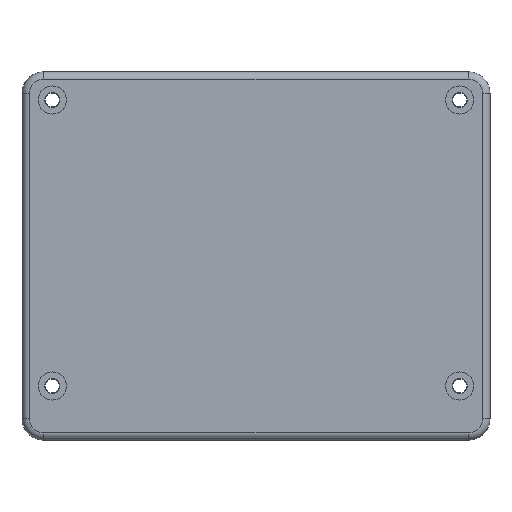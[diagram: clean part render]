
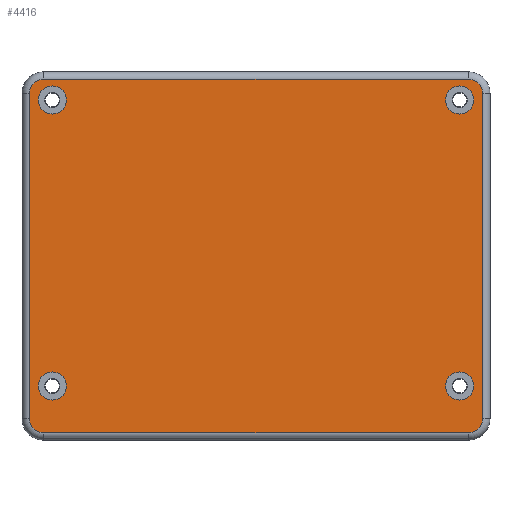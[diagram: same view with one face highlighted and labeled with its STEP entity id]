
A CAD part, front view. The second image highlights one B-rep face of the part: STEP entity #4416.
In plain terms, the highlighted planar face has unit normal (0, -1, 0).
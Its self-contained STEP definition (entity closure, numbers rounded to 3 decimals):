
#2=DIRECTION('',(1.,0.,0.));
#3=VECTOR('',#2,98.);
#4=CARTESIAN_POINT('',(-49.,-16.5,-40.8));
#5=LINE('',#4,#3);
#6=CARTESIAN_POINT('',(-49.,-16.5,-37.5));
#7=DIRECTION('',(0.,-1.,0.));
#8=DIRECTION('',(-1.,0.,0.));
#9=AXIS2_PLACEMENT_3D('',#6,#7,#8);
#11=DIRECTION('',(0.,0.,-1.));
#12=VECTOR('',#11,75.);
#13=CARTESIAN_POINT('',(-52.3,-16.5,37.5));
#14=LINE('',#13,#12);
#15=CARTESIAN_POINT('',(-49.,-16.5,37.5));
#16=DIRECTION('',(0.,-1.,0.));
#17=DIRECTION('',(0.,0.,1.));
#18=AXIS2_PLACEMENT_3D('',#15,#16,#17);
#20=DIRECTION('',(-1.,0.,0.));
#21=VECTOR('',#20,98.);
#22=CARTESIAN_POINT('',(49.,-16.5,40.8));
#23=LINE('',#22,#21);
#24=CARTESIAN_POINT('',(49.,-16.5,37.5));
#25=DIRECTION('',(0.,-1.,0.));
#26=DIRECTION('',(1.,0.,0.));
#27=AXIS2_PLACEMENT_3D('',#24,#25,#26);
#29=DIRECTION('',(0.,0.,1.));
#30=VECTOR('',#29,75.);
#31=CARTESIAN_POINT('',(52.3,-16.5,-37.5));
#32=LINE('',#31,#30);
#33=CARTESIAN_POINT('',(49.,-16.5,-37.5));
#34=DIRECTION('',(0.,-1.,0.));
#35=DIRECTION('',(0.,0.,-1.));
#36=AXIS2_PLACEMENT_3D('',#33,#34,#35);
#38=CARTESIAN_POINT('',(-47.,-16.5,-30.));
#39=DIRECTION('',(0.,-1.,0.));
#40=DIRECTION('',(-1.,0.,0.));
#41=AXIS2_PLACEMENT_3D('',#38,#39,#40);
#43=CARTESIAN_POINT('',(-47.,-16.5,-30.));
#44=DIRECTION('',(0.,-1.,0.));
#45=DIRECTION('',(1.,0.,0.));
#46=AXIS2_PLACEMENT_3D('',#43,#44,#45);
#48=CARTESIAN_POINT('',(47.,-16.5,-30.));
#49=DIRECTION('',(0.,-1.,0.));
#50=DIRECTION('',(-1.,0.,0.));
#51=AXIS2_PLACEMENT_3D('',#48,#49,#50);
#53=CARTESIAN_POINT('',(47.,-16.5,-30.));
#54=DIRECTION('',(0.,-1.,0.));
#55=DIRECTION('',(1.,0.,0.));
#56=AXIS2_PLACEMENT_3D('',#53,#54,#55);
#58=CARTESIAN_POINT('',(47.,-16.5,36.));
#59=DIRECTION('',(0.,-1.,0.));
#60=DIRECTION('',(-1.,0.,0.));
#61=AXIS2_PLACEMENT_3D('',#58,#59,#60);
#63=CARTESIAN_POINT('',(47.,-16.5,36.));
#64=DIRECTION('',(0.,-1.,0.));
#65=DIRECTION('',(1.,0.,0.));
#66=AXIS2_PLACEMENT_3D('',#63,#64,#65);
#68=CARTESIAN_POINT('',(-47.,-16.5,36.));
#69=DIRECTION('',(0.,-1.,0.));
#70=DIRECTION('',(-1.,0.,0.));
#71=AXIS2_PLACEMENT_3D('',#68,#69,#70);
#73=CARTESIAN_POINT('',(-47.,-16.5,36.));
#74=DIRECTION('',(0.,-1.,0.));
#75=DIRECTION('',(1.,0.,0.));
#76=AXIS2_PLACEMENT_3D('',#73,#74,#75);
#3559=CARTESIAN_POINT('',(-49.,-16.5,-40.8));
#3560=CARTESIAN_POINT('',(49.,-16.5,-40.8));
#3561=VERTEX_POINT('',#3559);
#3562=VERTEX_POINT('',#3560);
#3567=CARTESIAN_POINT('',(52.3,-16.5,-37.5));
#3568=VERTEX_POINT('',#3567);
#3571=CARTESIAN_POINT('',(52.3,-16.5,37.5));
#3572=VERTEX_POINT('',#3571);
#3575=CARTESIAN_POINT('',(49.,-16.5,40.8));
#3576=VERTEX_POINT('',#3575);
#3579=CARTESIAN_POINT('',(-49.,-16.5,40.8));
#3580=VERTEX_POINT('',#3579);
#3583=CARTESIAN_POINT('',(-52.3,-16.5,37.5));
#3584=VERTEX_POINT('',#3583);
#3587=CARTESIAN_POINT('',(-52.3,-16.5,-37.5));
#3588=VERTEX_POINT('',#3587);
#4152=CARTESIAN_POINT('',(-50.25,-16.5,-30.));
#4153=CARTESIAN_POINT('',(-43.75,-16.5,-30.));
#4154=VERTEX_POINT('',#4152);
#4155=VERTEX_POINT('',#4153);
#4156=CARTESIAN_POINT('',(43.75,-16.5,-30.));
#4157=CARTESIAN_POINT('',(50.25,-16.5,-30.));
#4158=VERTEX_POINT('',#4156);
#4159=VERTEX_POINT('',#4157);
#4160=CARTESIAN_POINT('',(43.75,-16.5,36.));
#4161=CARTESIAN_POINT('',(50.25,-16.5,36.));
#4162=VERTEX_POINT('',#4160);
#4163=VERTEX_POINT('',#4161);
#4164=CARTESIAN_POINT('',(-50.25,-16.5,36.));
#4165=CARTESIAN_POINT('',(-43.75,-16.5,36.));
#4166=VERTEX_POINT('',#4164);
#4167=VERTEX_POINT('',#4165);
#4369=CARTESIAN_POINT('',(0.,-16.5,0.));
#4370=DIRECTION('',(0.,1.,0.));
#4371=DIRECTION('',(1.,0.,0.));
#4372=AXIS2_PLACEMENT_3D('',#4369,#4370,#4371);
#4373=PLANE('',#4372);
#4375=ORIENTED_EDGE('',*,*,#4374,.F.);
#4377=ORIENTED_EDGE('',*,*,#4376,.F.);
#4379=ORIENTED_EDGE('',*,*,#4378,.F.);
#4381=ORIENTED_EDGE('',*,*,#4380,.F.);
#4383=ORIENTED_EDGE('',*,*,#4382,.F.);
#4385=ORIENTED_EDGE('',*,*,#4384,.F.);
#4387=ORIENTED_EDGE('',*,*,#4386,.F.);
#4389=ORIENTED_EDGE('',*,*,#4388,.F.);
#4390=EDGE_LOOP('',(#4375,#4377,#4379,#4381,#4383,#4385,#4387,#4389));
#4391=FACE_OUTER_BOUND('',#4390,.F.);
#4393=ORIENTED_EDGE('',*,*,#4392,.T.);
#4395=ORIENTED_EDGE('',*,*,#4394,.T.);
#4396=EDGE_LOOP('',(#4393,#4395));
#4397=FACE_BOUND('',#4396,.F.);
#4399=ORIENTED_EDGE('',*,*,#4398,.T.);
#4401=ORIENTED_EDGE('',*,*,#4400,.T.);
#4402=EDGE_LOOP('',(#4399,#4401));
#4403=FACE_BOUND('',#4402,.F.);
#4405=ORIENTED_EDGE('',*,*,#4404,.T.);
#4407=ORIENTED_EDGE('',*,*,#4406,.T.);
#4408=EDGE_LOOP('',(#4405,#4407));
#4409=FACE_BOUND('',#4408,.F.);
#4411=ORIENTED_EDGE('',*,*,#4410,.T.);
#4413=ORIENTED_EDGE('',*,*,#4412,.T.);
#4414=EDGE_LOOP('',(#4411,#4413));
#4415=FACE_BOUND('',#4414,.F.);
#4416=ADVANCED_FACE('',(#4391,#4397,#4403,#4409,#4415),#4373,.F.);
#10=CIRCLE('',#9,3.3);
#19=CIRCLE('',#18,3.3);
#28=CIRCLE('',#27,3.3);
#37=CIRCLE('',#36,3.3);
#42=CIRCLE('',#41,3.25);
#47=CIRCLE('',#46,3.25);
#52=CIRCLE('',#51,3.25);
#57=CIRCLE('',#56,3.25);
#62=CIRCLE('',#61,3.25);
#67=CIRCLE('',#66,3.25);
#72=CIRCLE('',#71,3.25);
#77=CIRCLE('',#76,3.25);
#4374=EDGE_CURVE('',#3561,#3562,#5,.T.);
#4376=EDGE_CURVE('',#3588,#3561,#10,.T.);
#4378=EDGE_CURVE('',#3584,#3588,#14,.T.);
#4380=EDGE_CURVE('',#3580,#3584,#19,.T.);
#4382=EDGE_CURVE('',#3576,#3580,#23,.T.);
#4384=EDGE_CURVE('',#3572,#3576,#28,.T.);
#4386=EDGE_CURVE('',#3568,#3572,#32,.T.);
#4388=EDGE_CURVE('',#3562,#3568,#37,.T.);
#4392=EDGE_CURVE('',#4154,#4155,#42,.T.);
#4394=EDGE_CURVE('',#4155,#4154,#47,.T.);
#4398=EDGE_CURVE('',#4158,#4159,#52,.T.);
#4400=EDGE_CURVE('',#4159,#4158,#57,.T.);
#4404=EDGE_CURVE('',#4162,#4163,#62,.T.);
#4406=EDGE_CURVE('',#4163,#4162,#67,.T.);
#4410=EDGE_CURVE('',#4166,#4167,#72,.T.);
#4412=EDGE_CURVE('',#4167,#4166,#77,.T.);
